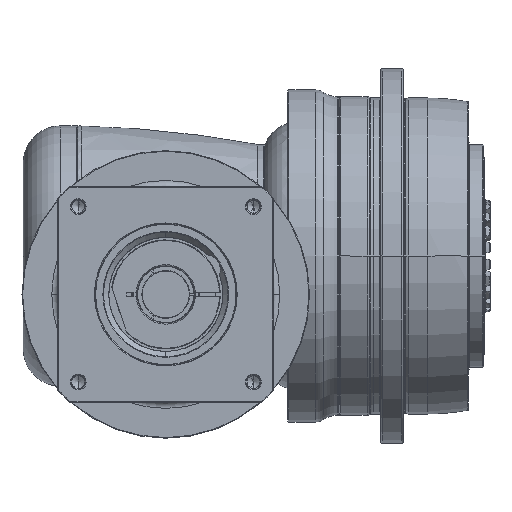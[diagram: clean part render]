
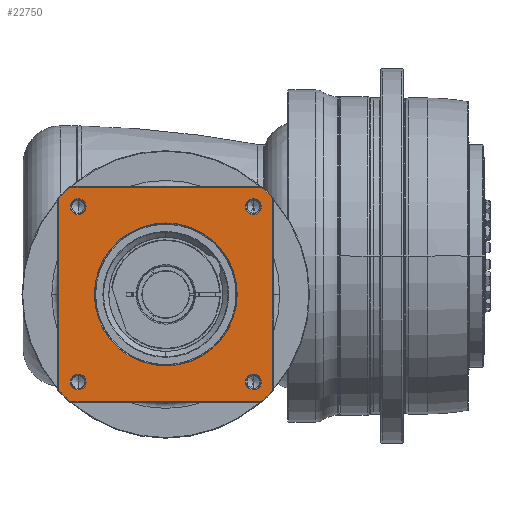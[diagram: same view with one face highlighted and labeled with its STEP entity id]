
A CAD part, front view. The second image highlights one B-rep face of the part: STEP entity #22750.
In plain terms, the highlighted planar face has unit normal (0, -1, 0) as drawn and (0, 0, 1) by its records, which use the part's own axes.
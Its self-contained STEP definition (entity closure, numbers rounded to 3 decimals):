
#21501=CARTESIAN_POINT('',(0.,0.,
76.));
#21502=DIRECTION('',(0.,0.,-1.));
#21503=DIRECTION('',(0.,-1.,0.));
#21504=AXIS2_PLACEMENT_3D('',#21501,#21502,#21503);
#21506=CARTESIAN_POINT('',(0.,0.,
76.));
#21507=DIRECTION('',(0.,0.,-1.));
#21508=DIRECTION('',(0.,1.,0.));
#21509=AXIS2_PLACEMENT_3D('',#21506,#21507,#21508);
#21511=CARTESIAN_POINT('',(0.,0.,76.));
#21512=DIRECTION('',(0.,0.,1.));
#21513=DIRECTION('',(-0.746,-0.666,0.));
#21514=AXIS2_PLACEMENT_3D('',#21511,#21512,#21513);
#21526=DIRECTION('',(1.,0.,0.));
#21527=VECTOR('',#21526,154.58);
#21528=CARTESIAN_POINT('',(-77.29,-86.5,76.));
#21529=LINE('',#21528,#21527);
#21539=CARTESIAN_POINT('',(0.,0.,76.));
#21540=DIRECTION('',(0.,0.,1.));
#21541=DIRECTION('',(0.666,-0.746,0.));
#21542=AXIS2_PLACEMENT_3D('',#21539,#21540,#21541);
#21554=DIRECTION('',(0.,1.,0.));
#21555=VECTOR('',#21554,154.58);
#21556=CARTESIAN_POINT('',(86.5,-77.29,76.));
#21557=LINE('',#21556,#21555);
#21567=CARTESIAN_POINT('',(0.,0.,76.));
#21568=DIRECTION('',(0.,0.,1.));
#21569=DIRECTION('',(0.746,0.666,0.));
#21570=AXIS2_PLACEMENT_3D('',#21567,#21568,#21569);
#21582=DIRECTION('',(-1.,0.,0.));
#21583=VECTOR('',#21582,154.58);
#21584=CARTESIAN_POINT('',(77.29,86.5,76.));
#21585=LINE('',#21584,#21583);
#21590=CARTESIAN_POINT('',(0.,0.,76.));
#21591=DIRECTION('',(0.,0.,1.));
#21592=DIRECTION('',(-0.666,0.746,0.));
#21593=AXIS2_PLACEMENT_3D('',#21590,#21591,#21592);
#21610=DIRECTION('',(0.,-1.,0.));
#21611=VECTOR('',#21610,154.58);
#21612=CARTESIAN_POINT('',(-86.5,77.29,76.));
#21613=LINE('',#21612,#21611);
#21696=CARTESIAN_POINT('',(-70.711,70.711,76.));
#21697=DIRECTION('',(0.,0.,1.));
#21698=DIRECTION('',(-1.,0.,0.));
#21699=AXIS2_PLACEMENT_3D('',#21696,#21697,#21698);
#21714=CARTESIAN_POINT('',(-70.711,70.711,76.));
#21715=DIRECTION('',(0.,0.,1.));
#21716=DIRECTION('',(1.,0.,0.));
#21717=AXIS2_PLACEMENT_3D('',#21714,#21715,#21716);
#21750=CARTESIAN_POINT('',(70.711,70.711,76.));
#21751=DIRECTION('',(0.,0.,1.));
#21752=DIRECTION('',(-1.,0.,0.));
#21753=AXIS2_PLACEMENT_3D('',#21750,#21751,#21752);
#21768=CARTESIAN_POINT('',(70.711,70.711,76.));
#21769=DIRECTION('',(0.,0.,1.));
#21770=DIRECTION('',(1.,0.,0.));
#21771=AXIS2_PLACEMENT_3D('',#21768,#21769,#21770);
#21804=CARTESIAN_POINT('',(70.711,-70.711,76.));
#21805=DIRECTION('',(0.,0.,1.));
#21806=DIRECTION('',(-1.,0.,0.));
#21807=AXIS2_PLACEMENT_3D('',#21804,#21805,#21806);
#21822=CARTESIAN_POINT('',(70.711,-70.711,76.));
#21823=DIRECTION('',(0.,0.,1.));
#21824=DIRECTION('',(1.,0.,0.));
#21825=AXIS2_PLACEMENT_3D('',#21822,#21823,#21824);
#21858=CARTESIAN_POINT('',(-70.711,-70.711,76.));
#21859=DIRECTION('',(0.,0.,1.));
#21860=DIRECTION('',(-1.,0.,0.));
#21861=AXIS2_PLACEMENT_3D('',#21858,#21859,#21860);
#21876=CARTESIAN_POINT('',(-70.711,-70.711,76.));
#21877=DIRECTION('',(0.,0.,1.));
#21878=DIRECTION('',(1.,0.,0.));
#21879=AXIS2_PLACEMENT_3D('',#21876,#21877,#21878);
#22008=CARTESIAN_POINT('',(86.5,-77.29,76.));
#22009=CARTESIAN_POINT('',(86.5,77.29,76.));
#22010=VERTEX_POINT('',#22008);
#22011=VERTEX_POINT('',#22009);
#22016=CARTESIAN_POINT('',(77.29,-86.5,76.));
#22017=VERTEX_POINT('',#22016);
#22020=CARTESIAN_POINT('',(-77.29,-86.5,76.));
#22021=VERTEX_POINT('',#22020);
#22024=CARTESIAN_POINT('',(-86.5,-77.29,76.));
#22025=VERTEX_POINT('',#22024);
#22028=CARTESIAN_POINT('',(-86.5,77.29,76.));
#22029=VERTEX_POINT('',#22028);
#22032=CARTESIAN_POINT('',(-77.29,86.5,76.));
#22033=VERTEX_POINT('',#22032);
#22036=CARTESIAN_POINT('',(77.29,86.5,76.));
#22037=VERTEX_POINT('',#22036);
#22046=CARTESIAN_POINT('',(-77.111,70.711,76.));
#22047=CARTESIAN_POINT('',(-64.311,70.711,76.));
#22048=VERTEX_POINT('',#22046);
#22049=VERTEX_POINT('',#22047);
#22072=CARTESIAN_POINT('',(77.111,70.711,76.));
#22073=CARTESIAN_POINT('',(64.311,70.711,76.));
#22074=VERTEX_POINT('',#22072);
#22075=VERTEX_POINT('',#22073);
#22080=CARTESIAN_POINT('',(77.111,-70.711,76.));
#22081=CARTESIAN_POINT('',(64.311,-70.711,76.));
#22082=VERTEX_POINT('',#22080);
#22083=VERTEX_POINT('',#22081);
#22088=CARTESIAN_POINT('',(-64.311,-70.711,76.));
#22089=CARTESIAN_POINT('',(-77.111,-70.711,76.));
#22090=VERTEX_POINT('',#22088);
#22091=VERTEX_POINT('',#22089);
#22096=CARTESIAN_POINT('',(0.,-57.65,76.));
#22097=CARTESIAN_POINT('',(0.,57.65,
76.));
#22098=VERTEX_POINT('',#22096);
#22099=VERTEX_POINT('',#22097);
#22698=CARTESIAN_POINT('',(0.,0.,76.));
#22699=DIRECTION('',(0.,0.,1.));
#22700=DIRECTION('',(1.,0.,0.));
#22701=AXIS2_PLACEMENT_3D('',#22698,#22699,#22700);
#22702=PLANE('',#22701);
#22704=ORIENTED_EDGE('',*,*,#22703,.F.);
#22706=ORIENTED_EDGE('',*,*,#22705,.F.);
#22708=ORIENTED_EDGE('',*,*,#22707,.F.);
#22710=ORIENTED_EDGE('',*,*,#22709,.F.);
#22712=ORIENTED_EDGE('',*,*,#22711,.F.);
#22714=ORIENTED_EDGE('',*,*,#22713,.F.);
#22716=ORIENTED_EDGE('',*,*,#22715,.F.);
#22718=ORIENTED_EDGE('',*,*,#22717,.F.);
#22719=EDGE_LOOP('',(#22704,#22706,#22708,#22710,#22712,#22714,#22716,#22718));
#22720=FACE_OUTER_BOUND('',#22719,.F.);
#22721=ORIENTED_EDGE('',*,*,#22688,.F.);
#22723=ORIENTED_EDGE('',*,*,#22722,.F.);
#22724=EDGE_LOOP('',(#22721,#22723));
#22725=FACE_BOUND('',#22724,.F.);
#22727=ORIENTED_EDGE('',*,*,#22726,.T.);
#22729=ORIENTED_EDGE('',*,*,#22728,.T.);
#22730=EDGE_LOOP('',(#22727,#22729));
#22731=FACE_BOUND('',#22730,.F.);
#22733=ORIENTED_EDGE('',*,*,#22732,.T.);
#22735=ORIENTED_EDGE('',*,*,#22734,.T.);
#22736=EDGE_LOOP('',(#22733,#22735));
#22737=FACE_BOUND('',#22736,.F.);
#22739=ORIENTED_EDGE('',*,*,#22738,.T.);
#22741=ORIENTED_EDGE('',*,*,#22740,.T.);
#22742=EDGE_LOOP('',(#22739,#22741));
#22743=FACE_BOUND('',#22742,.F.);
#22745=ORIENTED_EDGE('',*,*,#22744,.T.);
#22747=ORIENTED_EDGE('',*,*,#22746,.T.);
#22748=EDGE_LOOP('',(#22745,#22747));
#22749=FACE_BOUND('',#22748,.F.);
#22750=ADVANCED_FACE('',(#22720,#22725,#22731,#22737,#22743,#22749),#22702,.T.);
#21505=CIRCLE('',#21504,57.65);
#21510=CIRCLE('',#21509,57.65);
#21515=CIRCLE('',#21514,116.);
#21543=CIRCLE('',#21542,116.);
#21571=CIRCLE('',#21570,116.);
#21594=CIRCLE('',#21593,116.);
#21700=CIRCLE('',#21699,6.4);
#21718=CIRCLE('',#21717,6.4);
#21754=CIRCLE('',#21753,6.4);
#21772=CIRCLE('',#21771,6.4);
#21808=CIRCLE('',#21807,6.4);
#21826=CIRCLE('',#21825,6.4);
#21862=CIRCLE('',#21861,6.4);
#21880=CIRCLE('',#21879,6.4);
#22688=EDGE_CURVE('',#22098,#22099,#21505,.T.);
#22703=EDGE_CURVE('',#22025,#22021,#21515,.T.);
#22705=EDGE_CURVE('',#22029,#22025,#21613,.T.);
#22707=EDGE_CURVE('',#22033,#22029,#21594,.T.);
#22709=EDGE_CURVE('',#22037,#22033,#21585,.T.);
#22711=EDGE_CURVE('',#22011,#22037,#21571,.T.);
#22713=EDGE_CURVE('',#22010,#22011,#21557,.T.);
#22715=EDGE_CURVE('',#22017,#22010,#21543,.T.);
#22717=EDGE_CURVE('',#22021,#22017,#21529,.T.);
#22722=EDGE_CURVE('',#22099,#22098,#21510,.T.);
#22726=EDGE_CURVE('',#22048,#22049,#21700,.T.);
#22728=EDGE_CURVE('',#22049,#22048,#21718,.T.);
#22732=EDGE_CURVE('',#22075,#22074,#21754,.T.);
#22734=EDGE_CURVE('',#22074,#22075,#21772,.T.);
#22738=EDGE_CURVE('',#22083,#22082,#21808,.T.);
#22740=EDGE_CURVE('',#22082,#22083,#21826,.T.);
#22744=EDGE_CURVE('',#22091,#22090,#21862,.T.);
#22746=EDGE_CURVE('',#22090,#22091,#21880,.T.);
